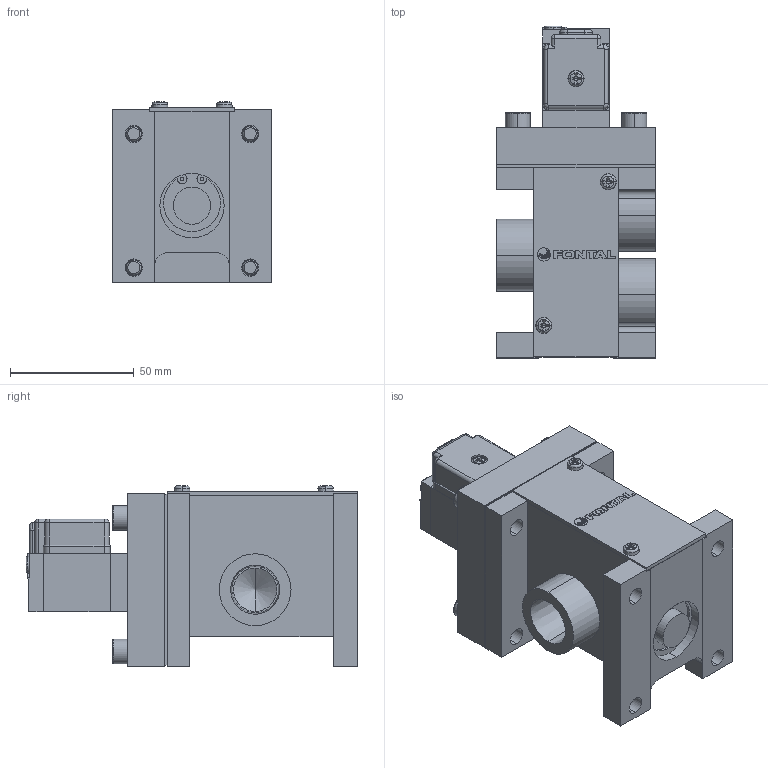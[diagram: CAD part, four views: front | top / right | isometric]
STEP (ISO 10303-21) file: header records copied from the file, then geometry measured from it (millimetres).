
FILE_DESCRIPTION (( 'STEP AP203' ), '1' );
FILE_NAME ('PMS2310#-04-#G#.STEP', '2016-03-09T08:19:27', ( 'Sam Lin' ), ( '' ), 'SwSTEP 2.0', 'SolidWorks 2013', '' );
FILE_SCHEMA (( 'CONFIG_CONTROL_DESIGN' ));
Length unit declared in the file: metre
Products named in the file (16): PM06-C1_1; PMS2310-5; PM06-C4_1; ISO 4762 M6 x 20; PM06-C6-M3_1; PM06-C3-M4_1; PM06-C5_1; PM10-MARK; PM06-G1; PMS2310-6; PMS2310#-04-#G#; PMS2310-1(04); PMS2308-5; PMS2310-2; PMS2308-6; PMS2310-3
Assembly tree (21 placements, depth 2):
  PMS2310#-04-#G#
    PMS2310-2
    PMS2310-3
    PMS2310-5
    ISO 4762 M6 x 20  x4
    PM06-C3-M4_1  x3
    PM10-MARK
    PMS2310-6
    PMS2310-1(04)
    PMS2308-5
    PMS2308-6
    PM06-C1_1
    PM06-C4_1
    PM06-C6-M3_1  x2
    PM06-C5_1
    PM06-G1
Bounding box: 64 x 134 x 73.05 mm (x, y, z)
Volume: 310526.5 mm3; surface area: 84231.2 mm2
Topology: 27 solids, 27 shells, 642 faces, 1559 edges, 974 vertices
Faces by surface type: plane 330, cylinder 169, cone 73, bspline 66, torus 4
Entity records: 16625 total; most frequent: CARTESIAN_POINT 3860, DIRECTION 2303, ORIENTED_EDGE 2226, EDGE_CURVE 1113, AXIS2_PLACEMENT_3D 833, VERTEX_POINT 716, VECTOR 637, LINE 637
